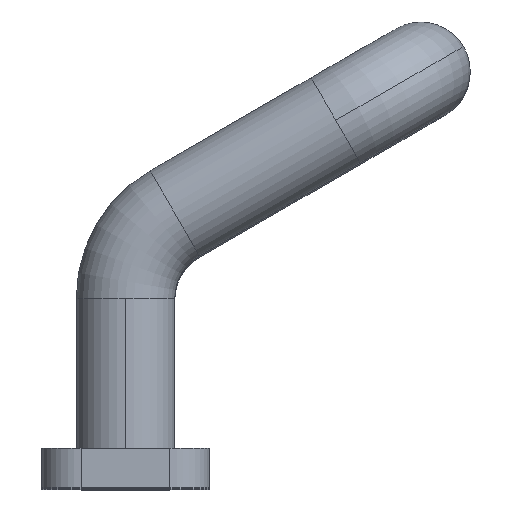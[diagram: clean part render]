
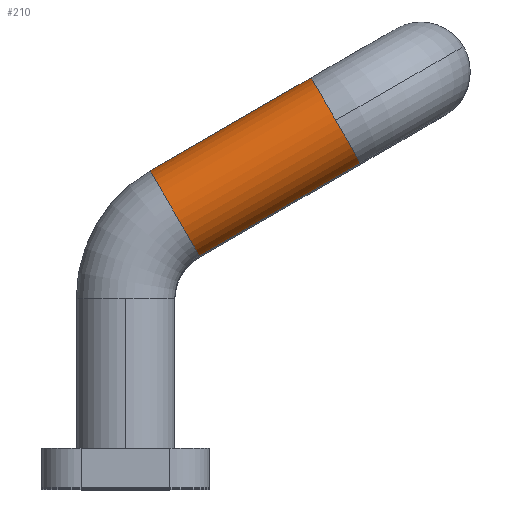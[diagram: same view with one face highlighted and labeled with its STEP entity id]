
A CAD part, top view. The second image highlights one B-rep face of the part: STEP entity #210.
In plain terms, the highlighted cylindrical face has radius 5 mm (diameter 10 mm), a partial arc.
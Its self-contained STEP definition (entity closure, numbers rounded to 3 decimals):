
#17 = DIRECTION ( 'NONE',  ( 0.866, 0.5, 0. ) ) ;
#26 = LINE ( 'NONE', #1135, #542 ) ;
#37 = CIRCLE ( 'NONE', #897, 5. ) ;
#48 = VERTEX_POINT ( 'NONE', #1234 ) ;
#58 = AXIS2_PLACEMENT_3D ( 'NONE', #981, #759, #1201 ) ;
#66 = CARTESIAN_POINT ( 'NONE',  ( 5., 27.887, 0. ) ) ;
#70 = DIRECTION ( 'NONE',  ( 0.866, 0.5, 0. ) ) ;
#87 = CARTESIAN_POINT ( 'NONE',  ( 23.84, 32.99, 0. ) ) ;
#126 = AXIS2_PLACEMENT_3D ( 'NONE', #1390, #70, #208 ) ;
#148 = EDGE_CURVE ( 'NONE', #670, #48, #37, .T. ) ;
#151 = AXIS2_PLACEMENT_3D ( 'NONE', #66, #156, #389 ) ;
#156 = DIRECTION ( 'NONE',  ( 0.866, 0.5, 0. ) ) ;
#162 = ORIENTED_EDGE ( 'NONE', *, *, #1063, .F. ) ;
#191 = ORIENTED_EDGE ( 'NONE', *, *, #148, .T. ) ;
#208 = DIRECTION ( 'NONE',  ( 0., 0., 1. ) ) ;
#210 = ADVANCED_FACE ( 'NONE', ( #1381 ), #1397, .T. ) ;
#226 = CARTESIAN_POINT ( 'NONE',  ( 2.5, 32.217, 0. ) ) ;
#237 = LINE ( 'NONE', #226, #245 ) ;
#245 = VECTOR ( 'NONE', #17, 1000. ) ;
#264 = CIRCLE ( 'NONE', #126, 5. ) ;
#278 = DIRECTION ( 'NONE',  ( 0., 0., 1. ) ) ;
#300 = VERTEX_POINT ( 'NONE', #87 ) ;
#332 = EDGE_CURVE ( 'NONE', #693, #1068, #685, .T. ) ;
#361 = EDGE_CURVE ( 'NONE', #48, #300, #26, .T. ) ;
#389 = DIRECTION ( 'NONE',  ( -0.5, 0.866, 0. ) ) ;
#542 = VECTOR ( 'NONE', #696, 1000. ) ;
#669 = ORIENTED_EDGE ( 'NONE', *, *, #332, .F. ) ;
#670 = VERTEX_POINT ( 'NONE', #1190 ) ;
#685 = CIRCLE ( 'NONE', #58, 5. ) ;
#693 = VERTEX_POINT ( 'NONE', #1291 ) ;
#696 = DIRECTION ( 'NONE',  ( 0.866, 0.5, 0. ) ) ;
#705 = DIRECTION ( 'NONE',  ( 0.866, 0.5, 0. ) ) ;
#759 = DIRECTION ( 'NONE',  ( 0.866, 0.5, 0. ) ) ;
#795 = ORIENTED_EDGE ( 'NONE', *, *, #1182, .F. ) ;
#812 = ORIENTED_EDGE ( 'NONE', *, *, #361, .T. ) ;
#897 = AXIS2_PLACEMENT_3D ( 'NONE', #1287, #705, #278 ) ;
#981 = CARTESIAN_POINT ( 'NONE',  ( 21.34, 37.321, 0. ) ) ;
#1063 = EDGE_CURVE ( 'NONE', #1068, #300, #264, .T. ) ;
#1068 = VERTEX_POINT ( 'NONE', #1400 ) ;
#1135 = CARTESIAN_POINT ( 'NONE',  ( 7.5, 23.557, 0. ) ) ;
#1182 = EDGE_CURVE ( 'NONE', #670, #693, #237, .T. ) ;
#1190 = CARTESIAN_POINT ( 'NONE',  ( 2.5, 32.217, 0. ) ) ;
#1201 = DIRECTION ( 'NONE',  ( 0., 0., 1. ) ) ;
#1234 = CARTESIAN_POINT ( 'NONE',  ( 7.5, 23.557, 0. ) ) ;
#1287 = CARTESIAN_POINT ( 'NONE',  ( 5., 27.887, 0. ) ) ;
#1291 = CARTESIAN_POINT ( 'NONE',  ( 18.84, 41.651, 0. ) ) ;
#1381 = FACE_OUTER_BOUND ( 'NONE', #1419, .T. ) ;
#1390 = CARTESIAN_POINT ( 'NONE',  ( 21.34, 37.321, 0. ) ) ;
#1397 = CYLINDRICAL_SURFACE ( 'NONE', #151, 5. ) ;
#1400 = CARTESIAN_POINT ( 'NONE',  ( 21.34, 37.321, 5. ) ) ;
#1419 = EDGE_LOOP ( 'NONE', ( #191, #812, #162, #669, #795 ) ) ;
